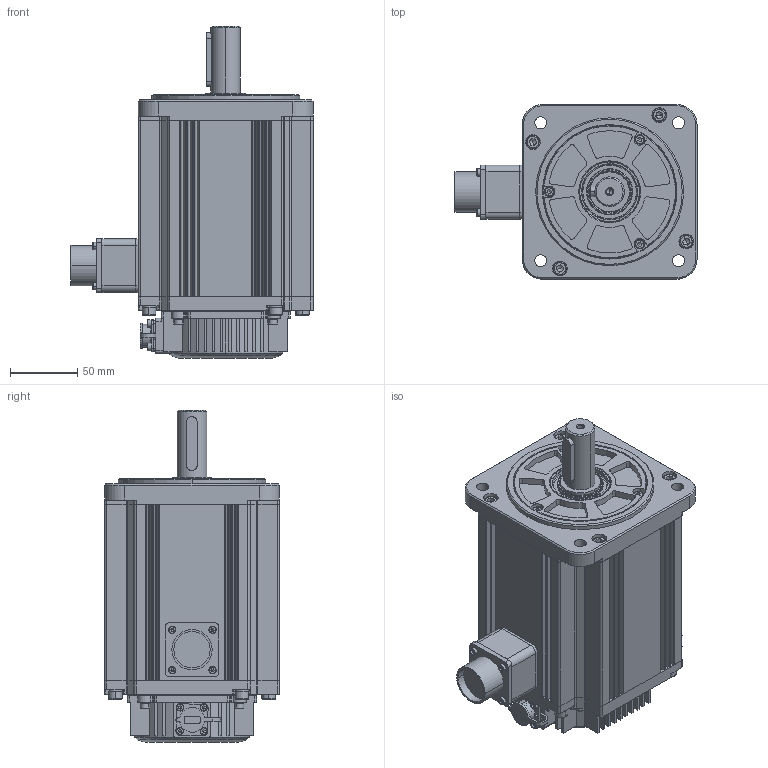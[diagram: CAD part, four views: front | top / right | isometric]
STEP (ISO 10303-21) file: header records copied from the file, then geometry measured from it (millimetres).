
FILE_DESCRIPTION (( 'STEP AP214' ), '1' );
FILE_NAME ('EMG-20((¶þ´ú).STEP', '2020-03-30T10:27:33', ( '' ), ( '' ), 'SwSTEP 2.0', 'SolidWorks 2018', '' );
FILE_SCHEMA (( 'AUTOMOTIVE_DESIGN' ));
Length unit declared in the file: millimetre
Products named in the file (64): wave single coil spring lock washers gb; hexagon socket head cap screws gb_GB_FASTENER_SCREWS_HSHCS M3X12-NHDA; 5; hexagon socket head cap screws gb; hexagon socket head cap screws gb_GB_FASTENER_SCREWS_HSHCS M6X16-NHDA; 9; wave single coil spring lock washers gb_GB_FASTENER_WASHER_WSLW 6; 8; hexagon socket head cap screws gb_GB_FASTENER_SCREWS_HSHCS M4X12-NHDA; 7; wave single coil spring lock washers gb_GB_FASTENER_WASHER_WSLW 4; 6; 12; 4; 11; 3; 10; 1; 2; EMG-20((媼測)
Assembly tree (46 placements, depth 2):
  wave single coil spring lock washers gb
  5
  hexagon socket head cap screws gb
  9
  wave single coil spring lock washers gb
Bounding box: 180.05 x 130 x 247 mm (x, y, z)
Volume: 2460596 mm3; surface area: 319713.8 mm2
Topology: 47 solids, 48 shells, 2091 faces, 5463 edges, 3512 vertices
Faces by surface type: plane 1023, cylinder 789, cone 182, torus 68, bspline 19, sphere 10
Entity records: 58884 total; most frequent: CARTESIAN_POINT 12919, ORIENTED_EDGE 8126, DIRECTION 8093, EDGE_CURVE 4063, AXIS2_PLACEMENT_3D 2884, VERTEX_POINT 2698, VECTOR 2325, LINE 2325
